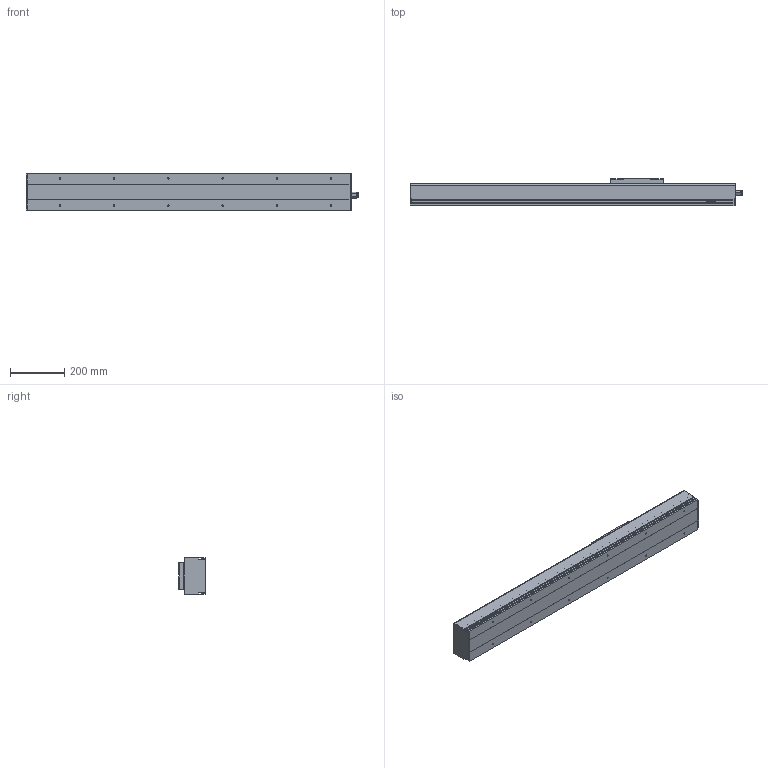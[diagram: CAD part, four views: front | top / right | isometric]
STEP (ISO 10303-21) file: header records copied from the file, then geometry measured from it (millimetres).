
FILE_DESCRIPTION(/* description */ (''),/* implementation_level */ '2;1');
FILE_NAME(/* name */ 'D:\混合母檔20191031\混和母檔\混和母檔\bin\Debug\Download\3D\KS140-20C-700AFI\KS140-20C-700AFI.stp',/* time_stamp */ '2019-11-04T15:39:15+08:00',/* author */ ('user'),/* organization */ (''),/* preprocessor_version */ 'ST-DEVELOPER v16.13',/* originating_system */ 'Autodesk Inventor 2018',/* authorisation */ '');
FILE_SCHEMA (('AUTOMOTIVE_DESIGN { 1 0 10303 214 3 1 1 }'));
Length unit declared in the file: millimetre
Products named in the file (3): KS140-20C-700AFI; KS140-FI-BP; KS140-SL
Assembly tree (2 placements, depth 2):
  KS140-20C-700AFI
    KS140-FI-BP
    KS140-SL
Bounding box: 1224.5 x 101 x 136 mm (x, y, z)
Volume: 4673024.5 mm3; surface area: 1208777.5 mm2
Topology: 4 solids, 8 shells, 683 faces, 1875 edges, 1231 vertices
Faces by surface type: plane 373, bspline 136, cylinder 80, cone 74, torus 16, sphere 4
Full cylindrical faces by diameter (mm): 3.571 x8, 4 x4, 4.134 x4, 4.3 x4, 4.917 x16, 6 x2, 8 x3, 8.4 x4, 12 x2, 13.1 x1, 15 x1, 18.75 x2, 46 x1, 50 x1
Entity records: 22057 total; most frequent: CARTESIAN_POINT 5917, ORIENTED_EDGE 3460, DIRECTION 2819, EDGE_CURVE 1729, VERTEX_POINT 1184, LINE 1143, VECTOR 1143, AXIS2_PLACEMENT_3D 838
